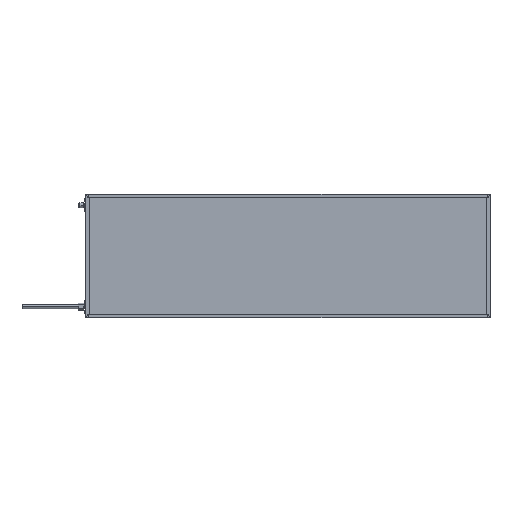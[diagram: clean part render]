
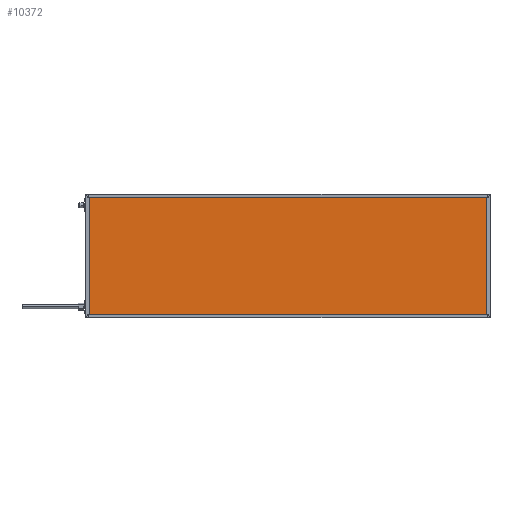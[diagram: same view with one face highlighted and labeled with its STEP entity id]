
A CAD part, top view. The second image highlights one B-rep face of the part: STEP entity #10372.
In plain terms, the highlighted planar face has unit normal (0, 0, 1).
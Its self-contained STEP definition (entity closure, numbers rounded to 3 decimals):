
#66 = AXIS2_PLACEMENT_3D ( 'NONE', #11620, #14256, #17173 ) ;
#95 = EDGE_CURVE ( 'NONE', #10773, #1072, #13961, .T. ) ;
#667 = CARTESIAN_POINT ( 'NONE',  ( 996., 4., 41.85 ) ) ;
#1072 = VERTEX_POINT ( 'NONE', #667 ) ;
#1328 = VERTEX_POINT ( 'NONE', #2757 ) ;
#1407 = EDGE_LOOP ( 'NONE', ( #5723, #12765, #5141, #13745 ) ) ;
#1638 = CARTESIAN_POINT ( 'NONE',  ( 0., 4., 41.85 ) ) ;
#1837 = DIRECTION ( 'NONE',  ( 1., 0., 0. ) ) ;
#2757 = CARTESIAN_POINT ( 'NONE',  ( 4., 296., 41.85 ) ) ;
#2820 = LINE ( 'NONE', #11024, #11694 ) ;
#2830 = EDGE_CURVE ( 'NONE', #12557, #1328, #2820, .T. ) ;
#3270 = EDGE_CURVE ( 'NONE', #1072, #12557, #6521, .T. ) ;
#3868 = CARTESIAN_POINT ( 'NONE',  ( 996., 0., 41.85 ) ) ;
#4371 = DIRECTION ( 'NONE',  ( -1., 0., 0. ) ) ;
#4696 = VECTOR ( 'NONE', #12089, 1000. ) ;
#5141 = ORIENTED_EDGE ( 'NONE', *, *, #5795, .T. ) ;
#5723 = ORIENTED_EDGE ( 'NONE', *, *, #3270, .T. ) ;
#5795 = EDGE_CURVE ( 'NONE', #1328, #10773, #7741, .T. ) ;
#6055 = PLANE ( 'NONE',  #66 ) ;
#6521 = LINE ( 'NONE', #3868, #4696 ) ;
#7741 = LINE ( 'NONE', #10465, #8081 ) ;
#8081 = VECTOR ( 'NONE', #9280, 1000. ) ;
#9280 = DIRECTION ( 'NONE',  ( 0., -1., 0. ) ) ;
#10372 = ADVANCED_FACE ( 'NONE', ( #15818 ), #6055, .F. ) ;
#10456 = VECTOR ( 'NONE', #1837, 1000. ) ;
#10465 = CARTESIAN_POINT ( 'NONE',  ( 4., 0., 41.85 ) ) ;
#10773 = VERTEX_POINT ( 'NONE', #14858 ) ;
#11024 = CARTESIAN_POINT ( 'NONE',  ( 0., 296., 41.85 ) ) ;
#11620 = CARTESIAN_POINT ( 'NONE',  ( 0., 0., 41.85 ) ) ;
#11694 = VECTOR ( 'NONE', #4371, 1000. ) ;
#12089 = DIRECTION ( 'NONE',  ( 0., 1., 0. ) ) ;
#12557 = VERTEX_POINT ( 'NONE', #15548 ) ;
#12765 = ORIENTED_EDGE ( 'NONE', *, *, #2830, .T. ) ;
#13745 = ORIENTED_EDGE ( 'NONE', *, *, #95, .T. ) ;
#13961 = LINE ( 'NONE', #1638, #10456 ) ;
#14256 = DIRECTION ( 'NONE',  ( 0., 0., -1. ) ) ;
#14858 = CARTESIAN_POINT ( 'NONE',  ( 4., 4., 41.85 ) ) ;
#15548 = CARTESIAN_POINT ( 'NONE',  ( 996., 296., 41.85 ) ) ;
#15818 = FACE_OUTER_BOUND ( 'NONE', #1407, .T. ) ;
#17173 = DIRECTION ( 'NONE',  ( -1., 0., 0. ) ) ;
